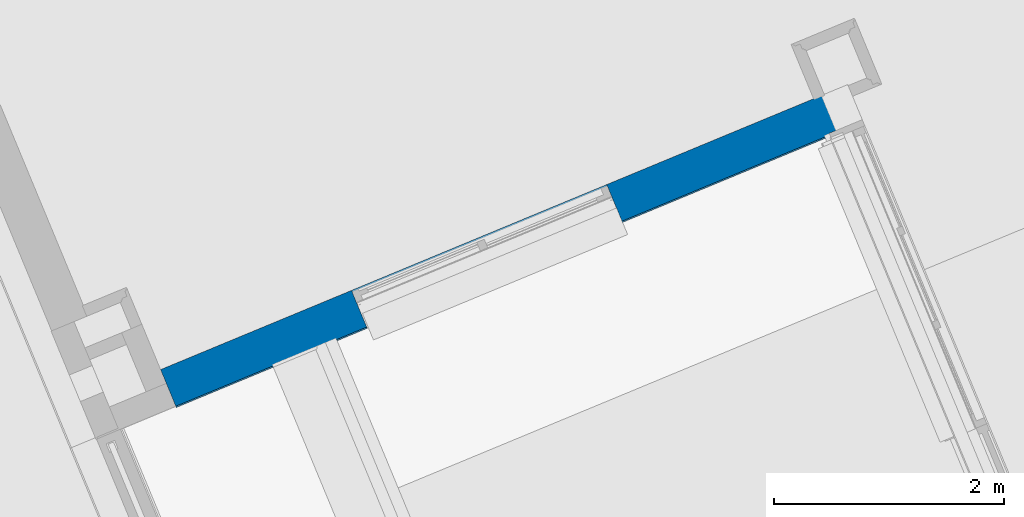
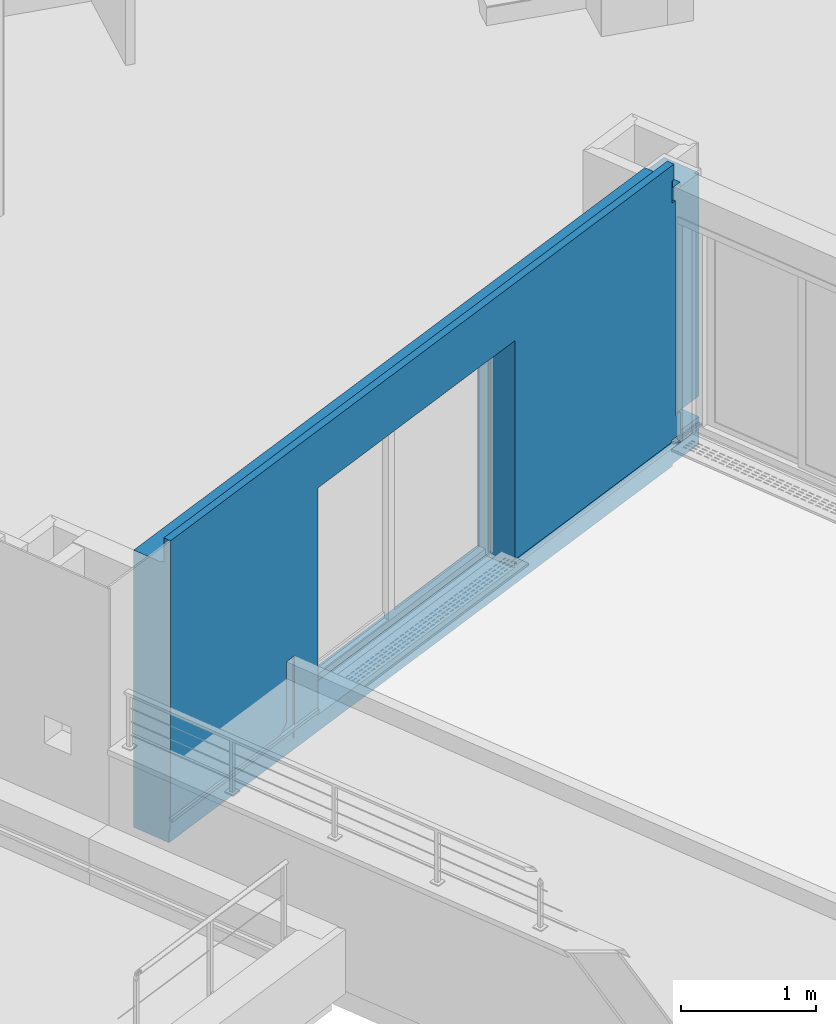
# One storey, part 21 of 62: 1 wall, 1 opening.
"""IFC2X3 building model written with IfcOpenShell, lengths in metres."""

from ifc_helpers import new_model, entity, si_unit, converted_unit, derived_unit, money_unit, direction, frame, origin_with_axes, place, context, subcontext, project, spatial, faceted_brep, material, material_list, type_object, element, save


model = new_model("IFC2X3")

# Units and contexts
model_context = context("Model", 3, precision=1e-05, world=origin_with_axes(), true_north=direction((0.0, 1.0)))
body_context = subcontext(model_context, "Body", "Model", "MODEL_VIEW")
ifc_project = project(units=[si_unit("LENGTHUNIT", "METRE"), si_unit("AREAUNIT", "SQUARE_METRE"), si_unit("VOLUMEUNIT", "CUBIC_METRE"), converted_unit("PLANEANGLEUNIT", "DEGREE", entity("IfcPlaneAngleMeasure", 0.0174532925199), si_unit("PLANEANGLEUNIT", "RADIAN"), dimensions=[0, 0, 0, 0, 0, 0, 0]), si_unit("SOLIDANGLEUNIT", "STERADIAN"), money_unit("EUR"), converted_unit("TIMEUNIT", "Year", entity("IfcTimeMeasure", 31556926.0), si_unit("TIMEUNIT", "SECOND"), dimensions=[0, 0, 1, 0, 0, 0, 0]), si_unit("MASSUNIT", "GRAM", prefix="KILO"), si_unit("THERMODYNAMICTEMPERATUREUNIT", "DEGREE_CELSIUS"), si_unit("LUMINOUSINTENSITYUNIT", "LUMEN"), si_unit("ENERGYUNIT", "JOULE", prefix="MEGA"), derived_unit("THERMALCONDUCTANCEUNIT", [(si_unit("POWERUNIT", "WATT"), 1), (si_unit("LENGTHUNIT", "METRE"), -1), (si_unit("THERMODYNAMICTEMPERATUREUNIT", "KELVIN"), -1)]), derived_unit("SPECIFICHEATCAPACITYUNIT", [(si_unit("ENERGYUNIT", "JOULE"), 1), (si_unit("MASSUNIT", "GRAM", prefix="KILO"), -1), (si_unit("THERMODYNAMICTEMPERATUREUNIT", "KELVIN"), -1)]), derived_unit("MASSDENSITYUNIT", [(si_unit("MASSUNIT", "GRAM", prefix="KILO"), 1), (si_unit("VOLUMEUNIT", "CUBIC_METRE"), -1)])], contexts=[model_context])

# Site, building, storey
site_placement = place(None, origin_with_axes())
site = spatial("IfcSite", under=ifc_project, at=site_placement, Name="Site", CompositionType="ELEMENT")
building_placement = place(site_placement, origin_with_axes())
building = spatial("IfcBuilding", under=site, at=building_placement, Name="Bâtiment", CompositionType="ELEMENT")
storey_placement = place(building_placement, frame((0.0, 0.0, 8.16), z_axis=(0.0, 0.0, 1.0), x_axis=(1.0, 0.0, 0.0)))
storey = spatial("IfcBuildingStorey", under=building, at=storey_placement, Name="R+3", CompositionType="ELEMENT", Elevation=8.16)

# Wall, opening
ifc_material_1 = material(Name="Finition int - Plaque de plâtre")
ifc_material_2 = material(Name="Isolation - Polystyrène extrudé")
ifc_material_3 = material(Name="Bloc ELITHERM")
ifc_material_4 = material(Name="Mortier")
ifc_material_5 = material(Name="Béton cellulaire")
ifc_material_6 = material(Name="Etanchéité - Bitume")
ifc_material_7 = material(Name="Finition ext - Crépis")
ifc_material_8 = material(Name="Métal - Aluminium")
ifc_material_list = material_list([ifc_material_1, ifc_material_2, ifc_material_3, ifc_material_4, ifc_material_5, ifc_material_6, ifc_material_7, ifc_material_8])
wall_type = type_object("IfcWallType", Name="Mur ALKERN + planelle 23 TERRASSE 356 x 2740", PredefinedType="USERDEFINED")
wall_placement = place(storey_placement, frame((-22.4793530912, -20.6715547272, 0.0), z_axis=(0.0, 0.0, 1.0), x_axis=(0.923701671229, 0.383112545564, 0.0)))
wall = element("IfcWall", 1, at=wall_placement, inside=storey, type_object=wall_type, material=ifc_material_list, Name="Mue bloc ALKERN isolé", ObjectType="SOLIDWALL", context=body_context, shape_type="Brep", body=[
    faceted_brep([(6.46182829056, 0.335000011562, 0.02), (6.46182829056, 0.335000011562, 0.267793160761), (6.21182828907, 0.335000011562, 0.267793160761), (6.21182828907, 0.335000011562, 0.455), (6.46182829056, 0.335000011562, 0.455), (6.46182829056, 0.335000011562, 2.47499997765), (6.22882828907, 0.335000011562, 2.475), (6.22882828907, 0.335000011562, 2.50955), (0.0, 0.335000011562, 2.50955001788), (0.0, 0.335000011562, 0.0), (6.13682828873, 0.335000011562, 0.0), (6.13682828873, 0.335000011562, 0.0199999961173), (1.79549135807, 0.335000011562, 2.22), (1.79549135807, 0.335000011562, 2.4), (4.19549135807, 0.335000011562, 2.4), (4.19549135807, 0.335000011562, 2.22), (4.19549135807, 0.335000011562, 0.22), (1.79549135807, 0.335000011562, 0.22), (6.46182829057, 0.345000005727, 0.02), (6.46182829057, 0.345000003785, 0.267793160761), (6.21182828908, 0.344999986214, 0.267793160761), (6.21182828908, 0.344999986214, 0.455), (6.46182829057, 0.345000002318, 0.455), (6.46182829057, 0.344999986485, 2.47499997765), (6.22882828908, 0.344999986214, 2.475), (6.22882828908, 0.344999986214, 2.50955), (0.0, 0.344999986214, 2.50955001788), (0.0, 0.344999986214, 0.0), (6.13682828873, 0.345000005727, 0.0), (6.13682828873, 0.345000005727, 0.0199999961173), (1.79549135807, 0.344999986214, 2.22), (1.79549135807, 0.345000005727, 2.4), (4.19549135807, 0.345000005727, 2.4), (4.19549135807, 0.344999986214, 2.22), (4.19549135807, 0.344999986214, 0.22), (1.79549135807, 0.344999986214, 0.22)], [[[0, 1, 2, 3, 4, 5, 6, 7, 8, 9, 10, 11], [12, 13, 14, 15, 16, 17]], [[1, 0, 18, 19]], [[2, 1, 19, 20]], [[2, 20, 21, 3]], [[21, 22, 4, 3]], [[5, 4, 22, 23]], [[6, 5, 23, 24]], [[7, 6, 24, 25]], [[25, 26, 8, 7]], [[8, 26, 27, 9]], [[28, 10, 9, 27]], [[11, 10, 28, 29]], [[18, 0, 11, 29]], [[13, 12, 30, 31]], [[14, 13, 31, 32]], [[15, 14, 32, 33]], [[15, 33, 34, 16]], [[16, 34, 35, 17]], [[30, 12, 17, 35]], [[19, 18, 29, 28, 27, 26, 25, 24, 23, 22, 21, 20], [31, 30, 35, 34, 33, 32]]]),
    faceted_brep([(4.19549135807, 0.233560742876, 0.22), (4.19549135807, 0.21499997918, 0.22), (4.19549135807, 0.21499997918, 2.22), (4.19549135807, 0.233560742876, 2.22), (4.19549135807, 0.21499997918, 0.16), (4.19549135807, 0.274560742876, 0.22), (4.19549135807, 0.274560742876, 0.16), (6.22882828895, 0.21499997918, 2.475), (6.22882828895, 0.21499997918, 2.50955), (0.0, 0.21499997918, 2.50955001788), (0.0, 0.21499997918, 0.0), (6.13682828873, 0.21499997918, 0.0), (6.13682828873, 0.21499997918, 0.0199999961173), (6.46182829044, 0.21499997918, 0.02), (6.46182829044, 0.21499997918, 0.267793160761), (6.21182828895, 0.21499997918, 0.267793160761), (6.21182828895, 0.21499997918, 0.455), (6.46182829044, 0.21499997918, 0.455), (6.46182829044, 0.21499997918, 2.47499997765), (1.79549135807, 0.21499997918, 0.16), (1.79549135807, 0.21499997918, 0.22), (1.79549135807, 0.21499997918, 2.22), (1.79549135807, 0.21499997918, 2.4), (4.19549135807, 0.21499997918, 2.4), (4.19549135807, 0.335000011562, 2.4), (4.19549135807, 0.335000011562, 2.22), (4.19549135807, 0.335000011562, 0.22), (1.79549135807, 0.274560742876, 0.22), (1.79549135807, 0.274560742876, 0.16), (6.22882828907, 0.335000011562, 2.475), (6.22882828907, 0.335000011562, 2.50955), (0.0, 0.335000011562, 2.50955001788), (0.0, 0.335000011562, 0.0), (6.13682828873, 0.335000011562, 0.0), (6.13682828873, 0.335000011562, 0.0199999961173), (6.46182829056, 0.335000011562, 0.02), (6.46182829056, 0.335000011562, 0.267793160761), (6.21182828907, 0.335000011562, 0.267793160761), (6.21182828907, 0.335000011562, 0.455), (6.46182829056, 0.335000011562, 0.455), (6.46182829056, 0.335000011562, 2.47499997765), (1.79549135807, 0.233560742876, 0.22), (1.79549135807, 0.233560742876, 2.22), (1.79549135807, 0.335000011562, 2.22), (1.79549135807, 0.335000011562, 2.4), (1.79549135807, 0.335000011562, 0.22)], [[[0, 1, 2, 3]], [[4, 1, 0, 5, 6]], [[7, 8, 9, 10, 11, 12, 13, 14, 15, 16, 17, 18], [19, 20, 21, 22, 23, 2, 1, 4]], [[24, 25, 3, 2, 23]], [[5, 0, 3, 25, 26]], [[5, 27, 28, 6]], [[19, 4, 6, 28]], [[29, 30, 8, 7]], [[9, 8, 30, 31]], [[10, 9, 31, 32]], [[10, 32, 33, 11]], [[33, 34, 12, 11]], [[12, 34, 35, 13]], [[35, 36, 14, 13]], [[36, 37, 15, 14]], [[38, 16, 15, 37]], [[17, 16, 38, 39]], [[39, 40, 18, 17]], [[40, 29, 7, 18]], [[41, 20, 19, 28, 27]], [[20, 41, 42, 21]], [[42, 43, 44, 22, 21]], [[22, 44, 24, 23]], [[30, 29, 40, 39, 38, 37, 36, 35, 34, 33, 32, 31], [26, 25, 24, 44, 43, 45]], [[27, 5, 26, 45]], [[41, 27, 45, 43, 42]]]),
    faceted_brep([(4.19549135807, 0.214999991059, 0.22), (4.19549135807, 0.0150000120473, 0.22), (4.19549135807, 0.015, 0.229414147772), (4.19549135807, 0.0160453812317, 0.229727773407), (4.19549135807, 0.0160453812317, 0.267793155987), (4.19549135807, 0.015, 0.267793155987), (4.19549135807, 0.015, 2.22), (4.19549135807, 0.203560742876, 2.22), (4.19549135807, 0.214999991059, 2.22), (4.19549135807, 0.0150000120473, 0.16), (4.19549135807, 0.214999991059, 0.16), (6.46182829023, 0.0150000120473, 0.220000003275), (6.46182829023, 0.015, 0.229414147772), (6.46182829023, 0.0160453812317, 0.229727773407), (6.21182828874, 0.0160453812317, 0.267793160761), (6.46182829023, 0.0160453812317, 0.267793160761), (6.21182828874, 0.015, 0.267793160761), (6.46182829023, 0.015, 0.455), (6.46182829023, 0.015, 2.47499997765), (6.22882828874, 0.015, 2.475), (6.22882828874, 0.015, 2.50955), (0.0, 0.015, 2.50955001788), (0.0, 0.015, 0.267793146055), (1.79549135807, 0.015, 0.267793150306), (1.79549135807, 0.015, 2.22), (6.21182828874, 0.015, 0.455), (1.79549135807, 0.203560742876, 2.22), (4.19549135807, 0.203560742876, 2.4), (4.19549135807, 0.214999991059, 2.4), (6.46182829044, 0.214999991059, 0.455), (6.21182828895, 0.214999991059, 0.455), (6.21182828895, 0.214999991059, 0.267793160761), (6.46182829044, 0.214999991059, 0.267793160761), (6.46182829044, 0.214999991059, 0.02), (6.13682828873, 0.214999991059, 0.0199999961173), (6.13682828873, 0.214999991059, 0.0), (0.0, 0.214999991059, 0.0), (0.0, 0.214999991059, 2.50955001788), (6.22882828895, 0.214999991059, 2.50955), (6.22882828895, 0.214999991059, 2.475), (6.46182829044, 0.214999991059, 2.47499997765), (1.79549135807, 0.214999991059, 2.4), (1.79549135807, 0.214999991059, 2.22), (1.79549135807, 0.214999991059, 0.22), (1.79549135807, 0.214999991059, 0.16), (1.79549135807, 0.0150000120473, 0.16), (1.79549135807, 0.0150000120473, 0.22), (0.0, 0.0150000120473, 0.220000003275), (0.0, 0.0150000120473, 0.100000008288), (6.46182829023, 0.0150000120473, 0.100000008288), (6.46182829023, 0.0149999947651, 0.02), (6.22882828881, 0.0829999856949, 2.50955), (0.0, 0.0829999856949, 2.50955001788), (0.0, 0.015, 0.0), (0.0, 0.015, 0.229414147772), (0.0, 0.0160453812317, 0.229727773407), (0.0, 0.0160453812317, 0.267793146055), (1.79549135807, 0.0160453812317, 0.267793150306), (1.79549135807, 0.0160453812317, 0.229727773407), (1.79549135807, 0.015, 0.229414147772), (1.79549135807, 0.203560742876, 2.4), (6.13682828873, 0.0149999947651, 0.0199999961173), (6.13682828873, 0.0149999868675, 0.0)], [[[0, 1, 2, 3, 4, 5, 6, 7, 8]], [[9, 1, 0, 10]], [[11, 12, 2, 1]], [[12, 13, 3, 2]], [[14, 4, 3, 13, 15]], [[14, 16, 5, 4]], [[17, 18, 19, 20, 21, 22, 23, 24, 6, 5, 16, 25]], [[7, 6, 24, 26]], [[7, 27, 28, 8]], [[29, 30, 31, 32, 33, 34, 35, 36, 37, 38, 39, 40], [10, 0, 8, 28, 41, 42, 43, 44]], [[45, 46, 47, 48, 49, 11, 1, 9]], [[45, 9, 10, 44]], [[50, 33, 32, 15, 13, 12, 11, 49]], [[15, 32, 31, 14]], [[25, 16, 14, 31, 30]], [[17, 29, 40, 18]], [[18, 40, 39, 19]], [[51, 20, 19, 39, 38]], [[52, 21, 20, 51]], [[53, 48, 47, 54, 55, 56, 22, 21, 52, 37, 36]], [[22, 56, 57, 23]], [[46, 43, 42, 26, 24, 23, 57, 58, 59]], [[29, 17, 25, 30]], [[26, 60, 27, 7]], [[28, 27, 60, 41]], [[50, 61, 34, 33]], [[62, 35, 34, 61]], [[62, 53, 36, 35]], [[37, 52, 51, 38]], [[42, 41, 60, 26]], [[43, 46, 45, 44]], [[54, 47, 46, 59]], [[49, 48, 53, 62, 61, 50]], [[55, 54, 59, 58]], [[56, 55, 58, 57]]]),
    faceted_brep([(6.22882828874, 0.015, 2.50955), (6.22882828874, 0.015, 2.52), (0.0, 0.015, 2.52), (0.0, 0.015, 2.50955), (6.22882828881, 0.083, 2.52), (6.22882828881, 0.083, 2.50955), (0.0, 0.083, 2.52), (0.0, 0.083, 2.50955)], [[[0, 1, 2, 3]], [[4, 1, 0, 5]], [[1, 4, 6, 2]], [[3, 2, 6, 7]], [[5, 0, 3, 7]], [[4, 5, 7, 6]]]),
    faceted_brep([(6.13682828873, 0.015, 2.51999999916), (6.13682828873, 0.015, 2.74000000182), (0.0, 0.015, 2.74), (0.0, 0.015, 2.52000000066), (6.13682828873, 0.0630000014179, 2.74000000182), (6.13682828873, 0.0630000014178, 2.51999999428), (0.0, 0.0630000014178, 2.74), (0.0, 0.0630000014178, 2.52000000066)], [[[0, 1, 2, 3]], [[4, 1, 0, 5]], [[1, 4, 6, 2]], [[6, 7, 3, 2]], [[5, 0, 3, 7]], [[4, 5, 7, 6]]]),
    faceted_brep([(4.19549135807, 0.0150000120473, 0.22), (4.19549135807, 0.005, 0.22), (6.46182829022, 0.005, 0.220000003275), (6.46182829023, 0.0150000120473, 0.220000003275), (4.19549135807, 0.005, 0.16), (4.19549135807, 0.0150000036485, 0.16), (1.79549135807, 0.005, 0.16), (1.79549135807, 0.005, 0.22), (0.0, 0.005, 0.220000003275), (0.0, 0.005, 0.11), (0.912373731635, 0.005, 0.11), (0.912373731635, 0.005, 0.193633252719), (1.51237373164, 0.005, 0.193633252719), (1.51237373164, 0.005, 0.11), (6.19882828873, 0.005, 0.11), (6.19882828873, 0.00500000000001, 0.100000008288), (6.2138282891, 0.00500000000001, 0.100000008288), (6.21382828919, 0.005, 0.119999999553), (6.21382828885, 0.005, 0.193633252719), (6.46182829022, 0.005, 0.193633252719), (6.46182829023, 0.0150000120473, 0.193633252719), (6.21382828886, 0.0150000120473, 0.193633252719), (6.2138282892, 0.0150000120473, 0.119999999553), (6.21382828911, 0.0150000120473, 0.100000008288), (6.19882828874, 0.0150000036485, 0.1), (6.19882828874, 0.0150000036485, 0.11), (1.51237373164, 0.015000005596, 0.11), (1.51237373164, 0.0150000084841, 0.193633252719), (0.912373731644, 0.0150000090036, 0.193633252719), (0.912373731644, 0.0150000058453, 0.11), (0.0, 0.0150000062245, 0.11), (0.0, 0.0150000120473, 0.220000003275), (1.79549135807, 0.0150000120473, 0.22), (1.79549135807, 0.0150000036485, 0.16)], [[[0, 1, 2, 3]], [[4, 1, 0, 5]], [[6, 7, 8, 9, 10, 11, 12, 13, 14, 15, 16, 17, 18, 19, 2, 1, 4]], [[19, 20, 3, 2]], [[5, 0, 3, 20, 21, 22, 23, 24, 25, 26, 27, 28, 29, 30, 31, 32, 33]], [[6, 4, 5, 33]], [[32, 7, 6, 33]], [[7, 32, 31, 8]], [[9, 8, 31, 30]], [[10, 9, 30, 29]], [[29, 28, 11, 10]], [[12, 11, 28, 27]], [[13, 12, 27, 26]], [[13, 26, 25, 14]], [[14, 25, 24, 15]], [[24, 23, 16, 15]], [[22, 17, 16, 23]], [[18, 17, 22, 21]], [[18, 21, 20, 19]]]),
    faceted_brep([(1.79549135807, -1.88386586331e-08, 0.236532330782), (1.79549135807, 1.3509847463e-08, 2.22), (4.19549135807, 1.35098492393e-08, 2.22), (4.19549135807, -1.88386568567e-08, 0.236532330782), (6.10382828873, -1.88386604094e-08, 0.236532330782), (6.10382828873, -1.87983033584e-08, 0.239006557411), (6.10382828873, -1.86190121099e-08, 0.25), (6.10382828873, -1.85374702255e-08, 0.255), (6.21182828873, -1.85374684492e-08, 0.255), (6.21182828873, -1.83288229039e-08, 0.267793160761), (6.2118283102, -1.52756562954e-08, 0.455000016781), (6.17682828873, -1.52756545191e-08, 0.455), (6.15182828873, -1.52756545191e-08, 0.455), (6.15182828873, 1.64454814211e-08, 2.4), (6.11182828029, 1.64454814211e-08, 2.4), (6.11182828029, 1.82321375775e-08, 2.50955), (6.11182828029, 1.84025701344e-08, 2.52), (6.11182828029, 1.97072953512e-08, 2.6), (6.13682828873, -1.29153097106e-08, 2.6), (6.13682828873, -1.29153097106e-08, 2.74000000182), (0.0, -1.88386586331e-08, 2.74), (0.0, -1.88386586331e-08, 0.236532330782), (1.33890606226, -1.88386604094e-08, 0.236532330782), (1.37016689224, -1.83288229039e-08, 0.267793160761), (1.41237373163, -1.76404686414e-08, 0.310000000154), (1.41237373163, -8.67048122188e-09, 0.860000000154), (1.51237373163, -8.67048655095e-09, 0.860000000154), (1.51237373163, -1.83288229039e-08, 0.267793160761), (1.51237373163, -1.88386586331e-08, 0.236532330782), (1.79549135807, 0.0150000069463, 0.236532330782), (1.79549135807, 0.0149999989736, 2.22), (4.19549135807, 0.0149999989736, 2.22), (4.19549135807, 0.0149999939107, 0.236532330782), (6.10382828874, 0.0149999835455, 0.236532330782), (6.10382828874, 0.0149999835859, 0.239006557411), (6.10382828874, 0.0149999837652, 0.25), (6.10382828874, 0.0149999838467, 0.255), (6.21182828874, 0.0149999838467, 0.255), (6.21182828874, 0.0149999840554, 0.267793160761), (6.21182831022, 0.0149999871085, 0.455000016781), (6.17682828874, 0.0149999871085, 0.455), (6.15182828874, 0.0149999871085, 0.455), (6.15182828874, 0.0150000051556, 2.4), (6.1118282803, 0.0150000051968, 2.4), (6.1118282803, 0.0150000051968, 2.50955), (6.1118282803, 0.0150000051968, 2.52), (6.1118282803, 0.0150000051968, 2.6), (6.13682828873, 0.0150000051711, 2.6), (6.13682828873, 0.0150000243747, 2.74000000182), (0.0, 0.0150000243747, 2.74), (0.0, 0.0149999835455, 0.236532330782), (1.33890606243, 0.0150000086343, 0.236532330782), (1.3701668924, 0.0150000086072, 0.267793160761), (1.41237373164, 0.0150000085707, 0.31), (1.41237373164, 0.0150000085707, 0.86), (1.51237373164, 0.0150000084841, 0.86), (1.51237373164, 0.0150000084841, 0.267793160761), (1.51237373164, 0.0150000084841, 0.236532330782)], [[[0, 1, 2, 3, 4, 5, 6, 7, 8, 9, 10, 11, 12, 13, 14, 15, 16, 17, 18, 19, 20, 21, 22, 23, 24, 25, 26, 27, 28]], [[1, 0, 29, 30]], [[2, 1, 30, 31]], [[3, 2, 31, 32]], [[3, 32, 33, 4]], [[34, 5, 4, 33]], [[35, 6, 5, 34]], [[7, 6, 35, 36]], [[8, 7, 36, 37]], [[38, 9, 8, 37]], [[39, 10, 9, 38]], [[40, 11, 10, 39]], [[12, 11, 40, 41]], [[42, 13, 12, 41]], [[14, 13, 42, 43]], [[44, 15, 14, 43]], [[45, 16, 15, 44]], [[17, 16, 45, 46]], [[47, 18, 17, 46]], [[18, 47, 48, 19]], [[20, 19, 48, 49]], [[21, 20, 49, 50]], [[51, 22, 21, 50]], [[52, 23, 22, 51]], [[24, 23, 52, 53]], [[25, 24, 53, 54]], [[26, 25, 54, 55]], [[27, 26, 55, 56]], [[27, 56, 57, 28]], [[29, 0, 28, 57]], [[30, 29, 57, 56, 55, 54, 53, 52, 51, 50, 49, 48, 47, 46, 45, 44, 43, 42, 41, 40, 39, 38, 37, 36, 35, 34, 33, 32, 31]]]),
    faceted_brep([(1.79549135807, -0.0114392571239, 0.193633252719), (1.79549135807, -0.0114392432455, 0.22), (1.79549135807, -0.0114392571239, 0.222931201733), (0.0, -0.0114392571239, 0.222931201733), (0.0, -0.0114392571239, 0.193633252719), (1.79549135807, -0.0102051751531, 0.22), (1.79549135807, -0.0102051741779, 0.193633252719), (1.79549135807, -0.0102051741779, 0.221852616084), (1.79549135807, 0.015, 0.229414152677), (1.79549135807, 0.0160453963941, 0.229727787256), (1.79549135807, 0.0160453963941, 0.267793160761), (1.79549135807, 0.015, 0.267793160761), (1.79549135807, 0.0149999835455, 0.236532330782), (1.79549135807, 0.015, 0.230774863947), (0.0, 0.015, 0.230774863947), (0.0, 0.0149999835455, 0.236532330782), (0.0, 0.015, 0.267793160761), (0.0, 0.0160453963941, 0.267793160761), (0.0, 0.0160453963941, 0.229727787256), (0.0, 0.015, 0.229414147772), (0.0, -0.0102051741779, 0.221852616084), (0.0, -0.0102051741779, 0.193633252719)], [[[0, 1, 2, 3, 4]], [[5, 1, 0, 6]], [[1, 5, 7, 8, 9, 10, 11, 12, 13, 2]], [[13, 14, 3, 2]], [[15, 16, 17, 18, 19, 20, 21, 4, 3, 14]], [[6, 0, 4, 21]], [[5, 6, 21, 20, 7]], [[7, 20, 19, 8]], [[8, 19, 18, 9]], [[9, 18, 17, 10]], [[10, 17, 16, 11]], [[11, 16, 15, 12]], [[12, 15, 14, 13]]]),
    faceted_brep([(4.19549135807, -0.0102051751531, 0.22), (4.19549135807, -0.0114392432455, 0.22), (4.19549135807, -0.0114392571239, 0.222931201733), (4.19549135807, 0.015, 0.230774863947), (4.19549135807, 0.0149999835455, 0.236532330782), (4.19549135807, 0.015, 0.267793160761), (4.19549135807, 0.0160453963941, 0.267793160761), (4.19549135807, 0.0160453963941, 0.229727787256), (4.19549135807, 0.015, 0.229414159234), (4.19549135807, -0.0102051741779, 0.221852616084), (4.19549135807, -0.0114392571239, 0.193633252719), (4.19549135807, -0.0102051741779, 0.193633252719), (6.4618282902, -0.0114392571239, 0.193633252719), (6.4618282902, -0.0114392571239, 0.22), (6.44382830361, -0.0114392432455, 0.22), (6.38382831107, -0.0114392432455, 0.22), (6.37382828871, -0.0114392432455, 0.22), (6.21780485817, -0.0114392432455, 0.22), (6.20382828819, -0.0114392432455, 0.22), (6.10882830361, -0.0114392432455, 0.22), (6.10882830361, -0.0114392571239, 0.222931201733), (6.10882830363, 0.0016699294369, 0.226820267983), (6.10882830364, 0.0104133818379, 0.229414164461), (6.10882830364, 0.015, 0.230774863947), (6.10882830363, 0.000890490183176, 0.226589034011), (6.10882830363, 0.00117580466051, 0.226673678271), (6.10882830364, 0.0149999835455, 0.236532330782), (6.10882830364, 0.0149999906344, 0.250000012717), (6.21682830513, 0.0149999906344, 0.24999999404), (6.21682830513, 0.015, 0.267793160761), (6.10882830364, 0.0149999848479, 0.239006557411), (6.21682830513, 0.0160453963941, 0.267793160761), (6.10882830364, 0.016045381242, 0.239006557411), (6.10882830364, 0.0160453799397, 0.236532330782), (6.10882830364, 0.0160453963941, 0.229727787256), (6.21682830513, 0.0160453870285, 0.24999999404), (6.10882830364, 0.0160453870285, 0.250000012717), (6.10882830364, 0.015, 0.229414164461), (6.10882830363, 0.00586507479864, 0.226673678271), (6.10882830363, 0.00558292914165, 0.226589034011), (6.10882830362, -0.0102051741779, 0.221852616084), (6.10882830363, 0.00635371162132, 0.226820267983), (6.10882830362, -0.0102051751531, 0.22), (6.20382828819, -0.0102051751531, 0.22), (6.21780485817, -0.0102051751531, 0.22), (6.37382828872, -0.0102051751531, 0.22), (6.38382831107, -0.0102051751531, 0.22), (6.44382830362, -0.0102051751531, 0.22), (6.46182829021, -0.0102051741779, 0.22), (6.46182829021, -0.0102051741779, 0.193633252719)], [[[0, 1, 2, 3, 4, 5, 6, 7, 8, 9]], [[10, 1, 0, 11]], [[1, 10, 12, 13, 14, 15, 16, 17, 18, 19, 20, 2]], [[21, 22, 23, 3, 2, 20, 24, 25]], [[3, 23, 26, 4]], [[27, 28, 29, 5, 4, 26, 30]], [[5, 29, 31, 6]], [[32, 33, 34, 7, 6, 31, 35, 36]], [[7, 34, 37, 8]], [[38, 39, 40, 9, 8, 37, 41]], [[11, 0, 9, 40, 42, 43, 44, 45, 46, 47, 48, 49]], [[10, 11, 49, 12]], [[13, 12, 49, 48]], [[13, 48, 47, 14]], [[47, 46, 15, 14]], [[45, 16, 15, 46]], [[17, 16, 45, 44]], [[17, 44, 43, 18]], [[43, 42, 19, 18]], [[39, 24, 20, 19, 42, 40]], [[21, 41, 37, 22]], [[23, 22, 37, 34, 33, 26]], [[24, 39, 38, 25]], [[41, 21, 25, 38]], [[27, 36, 35, 28]], [[28, 35, 31, 29]], [[30, 26, 33, 32]], [[30, 32, 36, 27]]]),
])
opening_placement = place(wall_placement, frame((2.99549135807, 0.0, 0.22), z_axis=(0.0, 0.0, 1.0), x_axis=(1.0, 0.0, 0.0)))
element("IfcOpeningElement", 2, at=opening_placement, cuts=wall, Name="MEN 113", context=body_context, shape_type="Brep", body=[
    faceted_brep([(1.2, -0.0014392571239, 0.0), (1.2, -0.0014392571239, -0.06), (1.2, 0.274560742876, -0.06), (1.2, 0.274560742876, 0.0), (-1.2, -0.0014392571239, 0.0), (-1.2, -0.0014392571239, -0.06), (-1.2, 0.274560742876, -0.06), (-1.2, 0.274560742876, 0.0)], [[[0, 1, 2, 3]], [[0, 4, 5, 1]], [[1, 5, 6, 2]], [[3, 2, 6, 7]], [[4, 0, 3, 7]], [[5, 4, 7, 6]]]),
    faceted_brep([(1.2, 0.233560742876, 0.0), (-1.2, 0.233560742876, 0.0), (-1.2, 0.834999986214, 0.0), (1.2, 0.834999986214, 0.0), (1.2, 0.233560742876, 2.0), (-1.2, 0.233560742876, 2.0), (-1.2, 0.834999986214, 2.0), (1.2, 0.834999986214, 2.0)], [[[0, 1, 2, 3]], [[0, 4, 5, 1]], [[1, 5, 6, 2]], [[3, 2, 6, 7]], [[4, 0, 3, 7]], [[5, 4, 7, 6]]]),
    faceted_brep([(1.2, 0.233560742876, 0.0), (1.2, 0.233560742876, 2.0), (1.2, -0.367878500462, 2.0), (1.2, -0.367878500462, 0.0), (-1.2, 0.233560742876, 0.0), (-1.2, 0.233560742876, 2.0), (-1.2, -0.367878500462, 2.0), (-1.2, -0.367878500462, 0.0)], [[[0, 1, 2, 3]], [[0, 4, 5, 1]], [[1, 5, 6, 2]], [[3, 2, 6, 7]], [[4, 0, 3, 7]], [[5, 4, 7, 6]]]),
    faceted_brep([(1.2, 0.233560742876, 0.0), (1.2, 0.233560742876, 2.0), (1.2, -0.367878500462, 2.0), (1.2, -0.367878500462, 0.0), (-1.2, 0.233560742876, 0.0), (-1.2, 0.233560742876, 2.0), (-1.2, -0.367878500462, 2.0), (-1.2, -0.367878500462, 0.0)], [[[0, 1, 2, 3]], [[0, 4, 5, 1]], [[1, 5, 6, 2]], [[3, 2, 6, 7]], [[4, 0, 3, 7]], [[5, 4, 7, 6]]]),
    faceted_brep([(1.2, 0.203560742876, 2.0), (-1.2, 0.203560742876, 2.0), (-1.2, 0.804999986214, 2.0), (1.2, 0.804999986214, 2.0), (1.2, 0.203560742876, 2.18), (-1.2, 0.203560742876, 2.18), (-1.2, 0.804999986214, 2.18), (1.2, 0.804999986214, 2.18)], [[[0, 1, 2, 3]], [[0, 4, 5, 1]], [[1, 5, 6, 2]], [[3, 2, 6, 7]], [[4, 0, 3, 7]], [[5, 4, 7, 6]]]),
    faceted_brep([(1.2, -0.00143925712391, -0.05), (1.2, -0.00143925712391, 0.0), (1.2, -2.25107580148, 2.24963654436), (1.2, -2.25107580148, 2.19963654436), (-1.2, -0.0014392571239, -0.05), (-1.2, -0.0014392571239, 0.0), (-1.2, -2.25107580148, 2.24963654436), (-1.2, -2.25107580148, 2.19963654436)], [[[0, 1, 2, 3]], [[0, 4, 5, 1]], [[1, 5, 6, 2]], [[3, 2, 6, 7]], [[4, 0, 3, 7]], [[5, 4, 7, 6]]]),
])

save(model, "model.ifc")
